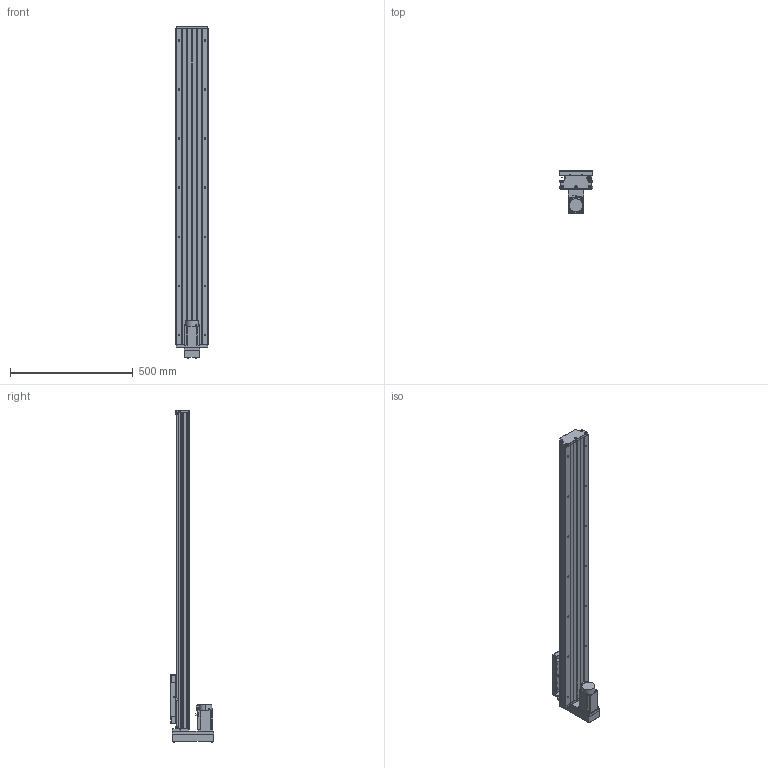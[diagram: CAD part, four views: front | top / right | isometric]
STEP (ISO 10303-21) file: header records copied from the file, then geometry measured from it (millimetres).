
FILE_DESCRIPTION (( 'STEP AP203' ), '1' );
FILE_NAME ('GTH14-1050-BM-M40-C4.step', '2023-06-30T08:44:07', ( '微软用户' ), ( '微软中国' ), 'SwSTEP 2.0', 'SolidWorks 2020', '' );
FILE_SCHEMA (( 'CONFIG_CONTROL_DESIGN' ));
Length unit declared in the file: millimetre
Products named in the file (19): GTH14-031; GTH14-1050-BM-M40-C4; GBT70.1 M5℅16; GBT 70.2-M3¡Á5_M3¡Á6; CTHA60-017; す晦芛蹟隊 M3℅5; GTH14-001_1050; EE_SX911P_R; HG-KN43J-S100; GTH14-002_GTH14-002; CTHA60-016; GBT 70.2-M4¡Á35_M4¡Á35; GTH14-004; GBT 70.1-M3℅5; GTH14-015-2_CTHA86-015-2; GTH14-005; GBT77-2000 M3×3; GTH14-033; GB1155-6X6
Assembly tree (58 placements, depth 2):
  GTH14-1050-BM-M40-C4
    GTH14-001_1050
    GTH14-002_GTH14-002
    GTH14-004
    GTH14-005
    GB1155-6X6  x2
    GBT70.1 M5℅16  x10
    CTHA60-017  x3
    EE_SX911P_R  x3
    CTHA60-016  x2
    GBT 70.1-M3℅5  x6
    GBT77-2000 M3×3  x6
    GTH14-031
    GBT 70.2-M3¡Á5_M3¡Á6  x8
    す晦芛蹟隊 M3℅5  x6
    HG-KN43J-S100
    GBT 70.2-M4¡Á35_M4¡Á35  x4
    GTH14-015-2_CTHA86-015-2
    GTH14-033
Bounding box: 135 x 177.5 x 1354.2 mm (x, y, z)
Volume: 7205997.4 mm3; surface area: 1154240.2 mm2
Topology: 61 solids, 61 shells, 2473 faces, 5881 edges, 3626 vertices
Faces by surface type: plane 1311, cylinder 672, cone 314, torus 124, sphere 32, bspline 20
Entity records: 44774 total; most frequent: CARTESIAN_POINT 9957, DIRECTION 6609, ORIENTED_EDGE 6452, EDGE_CURVE 3226, AXIS2_PLACEMENT_3D 2270, LINE 2069, VECTOR 2069, VERTEX_POINT 2044
